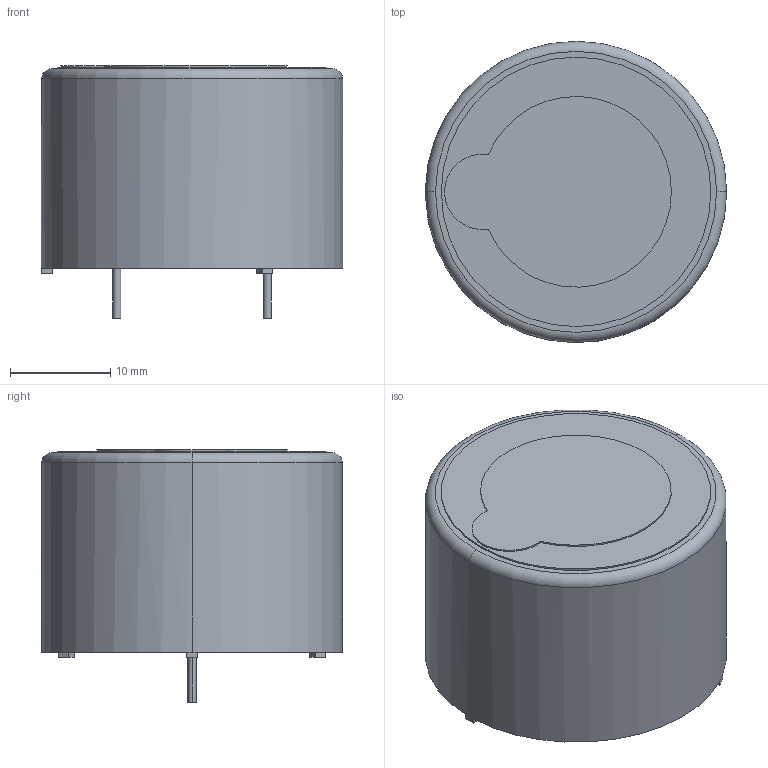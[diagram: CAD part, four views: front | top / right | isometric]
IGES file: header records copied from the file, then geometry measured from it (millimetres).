
Global section: file name: No Iges File Name specified; native system: AutoDesk Inventor R12.0; preprocessor: AutoDesk Inventor Iges Exporter R12.0; date: 20090219.144229; units: millimetre
Bounding box: 30.01 x 30 x 25.15 mm (x, y, z)
Volume: 3601 mm3; surface area: 7589.6 mm2
Topology: 3 solids, 3 shells, 52 faces, 120 edges, 75 vertices
Faces by surface type: plane 27, cylinder 17, revolution 4, bspline 2, torus 2
